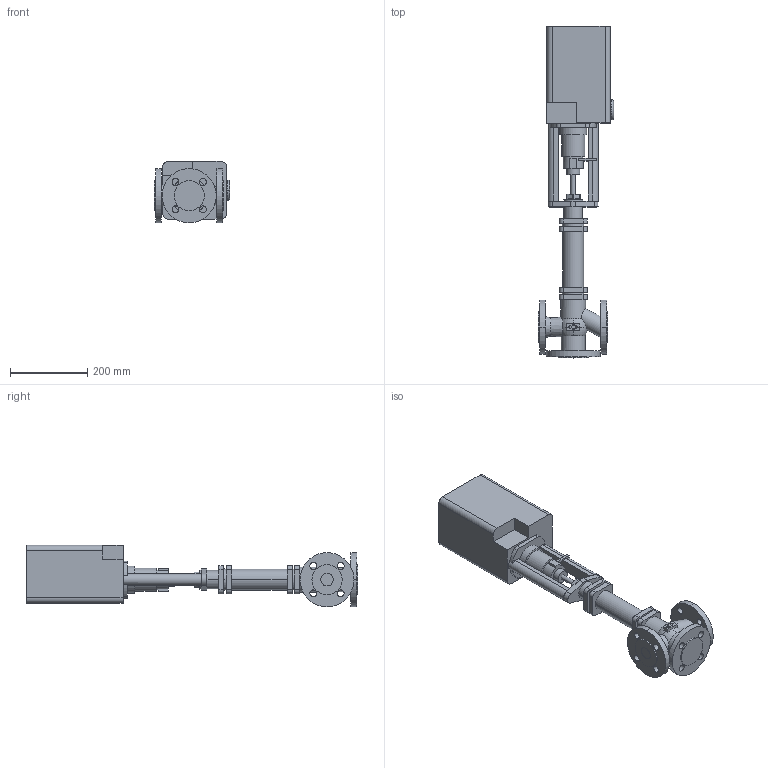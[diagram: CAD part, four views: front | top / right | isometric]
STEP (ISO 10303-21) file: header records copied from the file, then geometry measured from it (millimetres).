
FILE_DESCRIPTION(('OneSpaceDesigner STEP Export'),'2;1');
FILE_NAME('c000000417.stp','2006-09-21T11:36:34',(''),(''),'OneSpace Designer STEP processor for AP214 (Solid Model)','OneSpace Designer 13.20A 18-Aug-2005 (C) CoCreate Software GmbH','');
FILE_SCHEMA(('AUTOMOTIVE_DESIGN { 1 0 10303 214 1 1 1 1 }'));
Length unit declared in the file: millimetre
Products named in the file (2): 1; 2
Bounding box: 194.6 x 859 x 159 mm (x, y, z)
Volume: 8856476.2 mm3; surface area: 506468.3 mm2
Topology: 2 solids, 2 shells, 236 faces, 604 edges, 401 vertices
Faces by surface type: plane 113, cylinder 110, torus 9, cone 4
Entity records: 6841 total; most frequent: CARTESIAN_POINT 1326, ORIENTED_EDGE 1208, DIRECTION 1053, EDGE_CURVE 604, VERTEX_POINT 401, AXIS2_PLACEMENT_3D 366, VECTOR 321, LINE 321
